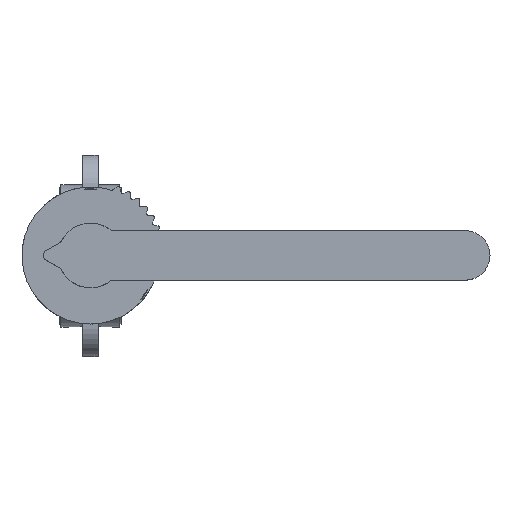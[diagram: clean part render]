
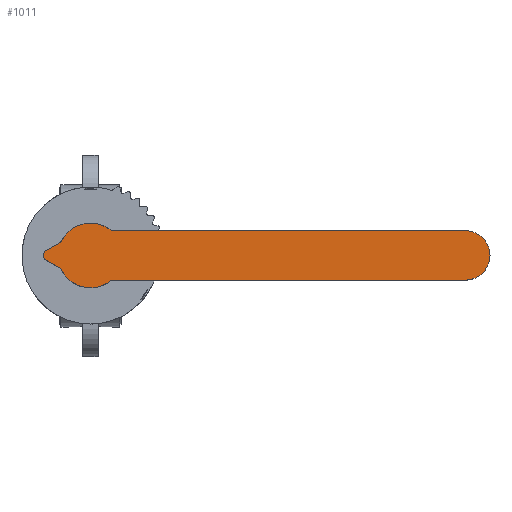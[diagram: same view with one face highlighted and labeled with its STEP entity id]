
A CAD part, top view. The second image highlights one B-rep face of the part: STEP entity #1011.
In plain terms, the highlighted planar face has unit normal (0, 0, 1).
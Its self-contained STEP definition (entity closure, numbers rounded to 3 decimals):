
#1011=ADVANCED_FACE('',(#7112),#7114,.T.);
#7112=FACE_BOUND('',#7113,.T.);
#7113=EDGE_LOOP('',(#12253,#12254,#12255,#12256,#12257,#12258,#12259,#12260,#12261,
#12262,#12263));
#7114=PLANE('',#7115);
#7115=AXIS2_PLACEMENT_3D('',#7116,#7117,#7118);
#7116=CARTESIAN_POINT('',(-1.545,-4.755,174.));
#7117=DIRECTION('',(0.,0.,1.));
#7118=DIRECTION('',(0.951,-0.309,0.));
#12253=ORIENTED_EDGE('',*,*,#15928,.T.);
#12254=ORIENTED_EDGE('',*,*,#15929,.T.);
#12255=ORIENTED_EDGE('',*,*,#15930,.T.);
#12256=ORIENTED_EDGE('',*,*,#15442,.T.);
#12257=ORIENTED_EDGE('',*,*,#15441,.T.);
#12258=ORIENTED_EDGE('',*,*,#15931,.T.);
#12259=ORIENTED_EDGE('',*,*,#15932,.T.);
#12260=ORIENTED_EDGE('',*,*,#15933,.T.);
#12261=ORIENTED_EDGE('',*,*,#15934,.T.);
#12262=ORIENTED_EDGE('',*,*,#15935,.T.);
#12263=ORIENTED_EDGE('',*,*,#15437,.T.);
#15437=EDGE_CURVE('',#17595,#17593,#17596,.T.);
#15441=EDGE_CURVE('',#17603,#17601,#17604,.T.);
#15442=EDGE_CURVE('',#17605,#17603,#17606,.T.);
#15928=EDGE_CURVE('',#17593,#18553,#18555,.T.);
#15929=EDGE_CURVE('',#18553,#18556,#18557,.T.);
#15930=EDGE_CURVE('',#18556,#17605,#18558,.T.);
#15931=EDGE_CURVE('',#17601,#18559,#18560,.T.);
#15932=EDGE_CURVE('',#18559,#18561,#18562,.T.);
#15933=EDGE_CURVE('',#18561,#18563,#18564,.T.);
#15934=EDGE_CURVE('',#18563,#18565,#18566,.T.);
#15935=EDGE_CURVE('',#18565,#17595,#18567,.T.);
#17593=VERTEX_POINT('',#22018);
#17595=VERTEX_POINT('',#22022);
#17596=CIRCLE('',#22023,17.);
#17601=VERTEX_POINT('',#22036);
#17603=VERTEX_POINT('',#22040);
#17604=CIRCLE('',#22041,17.);
#17605=VERTEX_POINT('',#22045);
#17606=CIRCLE('',#22046,17.);
#18553=VERTEX_POINT('',#24270);
#18555=LINE('',#24274,#24275);
#18556=VERTEX_POINT('',#24277);
#18557=CIRCLE('',#24278,13.);
#18558=LINE('',#24282,#24283);
#18559=VERTEX_POINT('',#24285);
#18560=CIRCLE('',#24286,3.);
#18561=VERTEX_POINT('',#24290);
#18562=LINE('',#24291,#24292);
#18563=VERTEX_POINT('',#24294);
#18564=CIRCLE('',#24295,3.);
#18565=VERTEX_POINT('',#24299);
#18566=LINE('',#24300,#24301);
#18567=CIRCLE('',#24303,3.);
#22018=CARTESIAN_POINT('',(10.954,-13.,174.));
#22022=CARTESIAN_POINT('',(-15.113,-7.785,174.));
#22023=AXIS2_PLACEMENT_3D('',#22024,#22025,#22026);
#22024=CARTESIAN_POINT('',(0.,0.,174.));
#22025=DIRECTION('',(0.,0.,1.));
#22026=DIRECTION('',(-0.889,-0.458,0.));
#22036=CARTESIAN_POINT('',(-15.113,7.785,174.));
#22040=CARTESIAN_POINT('',(2.659,16.791,174.));
#22041=AXIS2_PLACEMENT_3D('',#22042,#22043,#22044);
#22042=CARTESIAN_POINT('',(0.,0.,174.));
#22043=DIRECTION('',(0.,0.,1.));
#22044=DIRECTION('',(0.156,0.988,0.));
#22045=CARTESIAN_POINT('',(10.954,13.,174.));
#22046=AXIS2_PLACEMENT_3D('',#22047,#22048,#22049);
#22047=CARTESIAN_POINT('',(0.,0.,174.));
#22048=DIRECTION('',(0.,0.,1.));
#22049=DIRECTION('',(0.644,0.765,0.));
#24270=CARTESIAN_POINT('',(197.,-13.,174.));
#24274=CARTESIAN_POINT('',(10.954,-13.,174.));
#24275=VECTOR('',#24276,1.);
#24276=DIRECTION('',(1.,0.,0.));
#24277=CARTESIAN_POINT('',(197.,13.,174.));
#24278=AXIS2_PLACEMENT_3D('',#24279,#24280,#24281);
#24279=CARTESIAN_POINT('',(197.,0.,174.));
#24280=DIRECTION('',(0.,0.,1.));
#24281=DIRECTION('',(0.,-1.,0.));
#24282=CARTESIAN_POINT('',(197.,13.,174.));
#24283=VECTOR('',#24284,1.);
#24284=DIRECTION('',(-1.,0.,0.));
#24285=CARTESIAN_POINT('',(-16.317,6.539,174.));
#24286=AXIS2_PLACEMENT_3D('',#24287,#24288,#24289);
#24287=CARTESIAN_POINT('',(-17.78,9.159,174.));
#24288=DIRECTION('',(0.,0.,-1.));
#24289=DIRECTION('',(0.889,-0.458,0.));
#24290=CARTESIAN_POINT('',(-23.338,2.619,174.));
#24291=CARTESIAN_POINT('',(-16.317,6.539,174.));
#24292=VECTOR('',#24293,1.);
#24293=DIRECTION('',(-0.873,-0.487,0.));
#24294=CARTESIAN_POINT('',(-23.338,-2.619,174.));
#24295=AXIS2_PLACEMENT_3D('',#24296,#24297,#24298);
#24296=CARTESIAN_POINT('',(-21.876,0.,174.));
#24297=DIRECTION('',(0.,0.,1.));
#24298=DIRECTION('',(-0.487,0.873,0.));
#24299=CARTESIAN_POINT('',(-16.317,-6.539,174.));
#24300=CARTESIAN_POINT('',(-23.338,-2.619,174.));
#24301=VECTOR('',#24302,1.);
#24302=DIRECTION('',(0.873,-0.487,0.));
#24303=AXIS2_PLACEMENT_3D('',#24304,#24305,#24306);
#24304=CARTESIAN_POINT('',(-17.78,-9.159,174.));
#24305=DIRECTION('',(0.,0.,-1.));
#24306=DIRECTION('',(0.487,0.873,0.));
